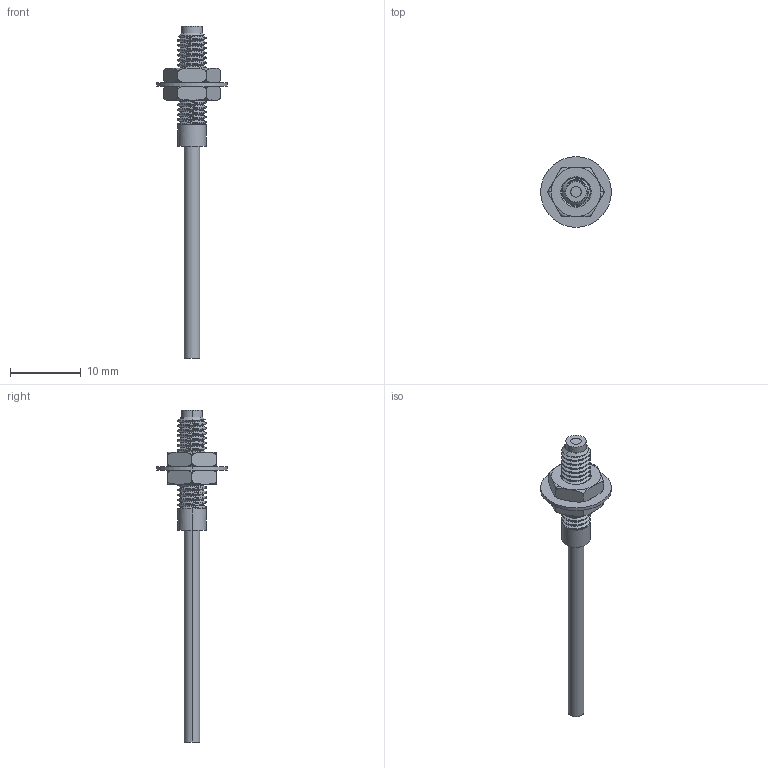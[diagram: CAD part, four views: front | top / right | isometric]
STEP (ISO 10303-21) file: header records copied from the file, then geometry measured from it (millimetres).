
FILE_DESCRIPTION (( 'STEP AP203' ), '1' );
FILE_NAME ('FQ-86H_R.STEP', '2020-11-04T02:25:01', ( '' ), ( '' ), 'SwSTEP 2.0', 'SolidWorks 2020', '' );
FILE_SCHEMA (( 'CONFIG_CONTROL_DESIGN' ));
Length unit declared in the file: millimetre
Products named in the file (4): FQ-86H_R; M4蹟譫x2x2x2; M4菜え____
Assembly tree (4 placements, depth 2):
  FQ-86H_R
    FQ-86H_R
    M4菜え____
    M4蹟譫x2x2x2  x2
Bounding box: 10 x 10 x 47 mm (x, y, z)
Volume: 449.8 mm3; surface area: 939.4 mm2
Topology: 4 solids, 4 shells, 111 faces, 287 edges, 188 vertices
Faces by surface type: cylinder 57, plane 25, cone 12, bspline 9, torus 8
Entity records: 6887 total; most frequent: CARTESIAN_POINT 4594, ORIENTED_EDGE 452, DIRECTION 333, EDGE_CURVE 226, VERTEX_POINT 149, AXIS2_PLACEMENT_3D 134, EDGE_LOOP 95, FACE_OUTER_BOUND 87
